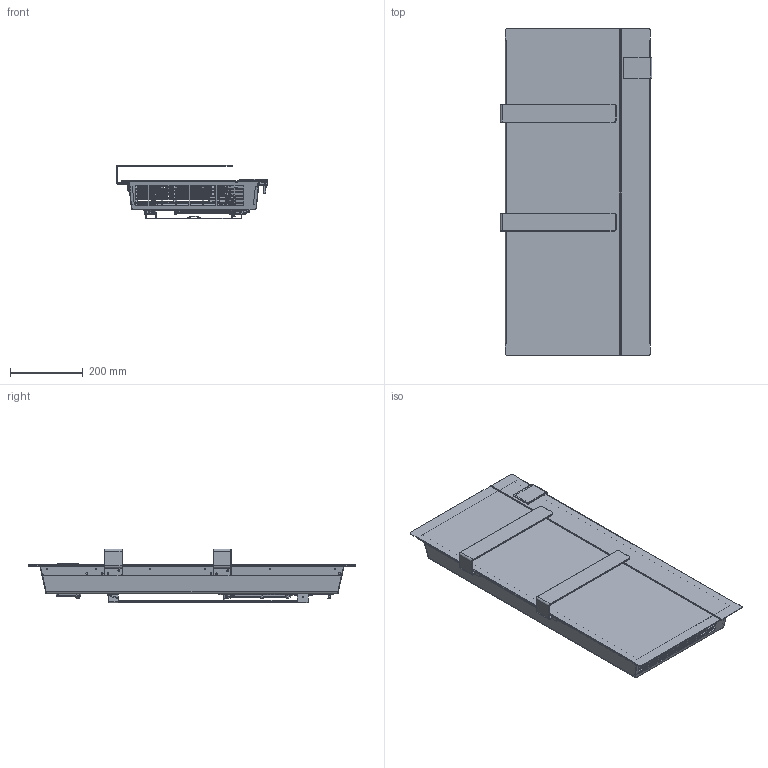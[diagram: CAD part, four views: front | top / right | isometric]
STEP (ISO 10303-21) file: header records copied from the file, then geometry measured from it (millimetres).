
FILE_DESCRIPTION(('FreeCAD Model'),'2;1');
FILE_NAME('Open CASCADE Shape Model','2026-06-11T07:27:10',(''),(''), 'Open CASCADE STEP processor 7.8','FreeCAD','Unknown');
FILE_SCHEMA(('AUTOMOTIVE_DESIGN { 1 0 10303 214 1 1 1 1 }'));
Length unit declared in the file: millimetre
Products named in the file (17): Unnamed; ONS_GR-POSTERIORE_SOUFLERI_ASM; ONS_POSTERIORE_SOUF; DEK_AGGANCIO-SUPPORTO; ONS_GR-COMANDI_ASM; ONS_FONDO-SCATOLA-COMANDI; ONS_MASCHERINA-COMANDI; ONS_FRONTALE; GLA_SOUFLERI_ASM; GLA_COPERCHIO-SOUFLERI; SLI_GR-FILTRO_ASM; SLI_FILTRO-CORPO; ONS_GR-SUPPORTO-MURALE_SOUFLERI_ASM; ONS_SUPPORTO-MURALE-SOUFLE; ONS_TRAVERSA-SUPPORTO-SOUF; ONS_SUPPORTO-MURALE-IN_SOUF; ONS_BARRA-PORTASALVIETTE
Assembly tree (18 placements, depth 3):
  Unnamed
    ONS_GR-POSTERIORE_SOUFLERI_ASM
      ONS_POSTERIORE_SOUF
      DEK_AGGANCIO-SUPPORTO  x2
    ONS_GR-COMANDI_ASM
      ONS_FONDO-SCATOLA-COMANDI
    ONS_MASCHERINA-COMANDI
    ONS_FRONTALE
    GLA_SOUFLERI_ASM
      GLA_COPERCHIO-SOUFLERI
    SLI_GR-FILTRO_ASM
      SLI_FILTRO-CORPO
    ONS_GR-SUPPORTO-MURALE_SOUFLERI_ASM
      ONS_SUPPORTO-MURALE-SOUFLE
      ONS_TRAVERSA-SUPPORTO-SOUF
      ONS_SUPPORTO-MURALE-IN_SOUF
    ONS_BARRA-PORTASALVIETTE  x2
Bounding box: 418.4 x 900 x 148.7 mm (x, y, z)
Volume: 1473047 mm3; surface area: 2116086.4 mm2
Topology: 13 solids, 13 shells, 3942 faces, 10466 edges, 6565 vertices
Faces by surface type: plane 1952, cylinder 1035, bspline 383, cone 317, torus 195, revolution 34, sphere 17, extrusion 9
Entity records: 144607 total; most frequent: CARTESIAN_POINT 51497, ORIENTED_EDGE 20480, DIRECTION 17423, EDGE_CURVE 10240, VERTEX_POINT 6437, VECTOR 6137, LINE 6128, AXIS2_PLACEMENT_3D 5626
